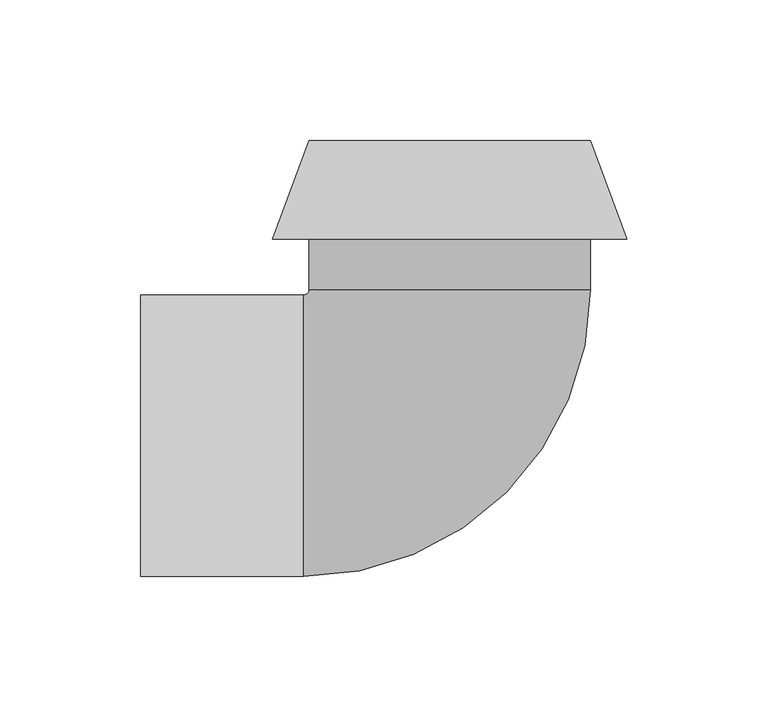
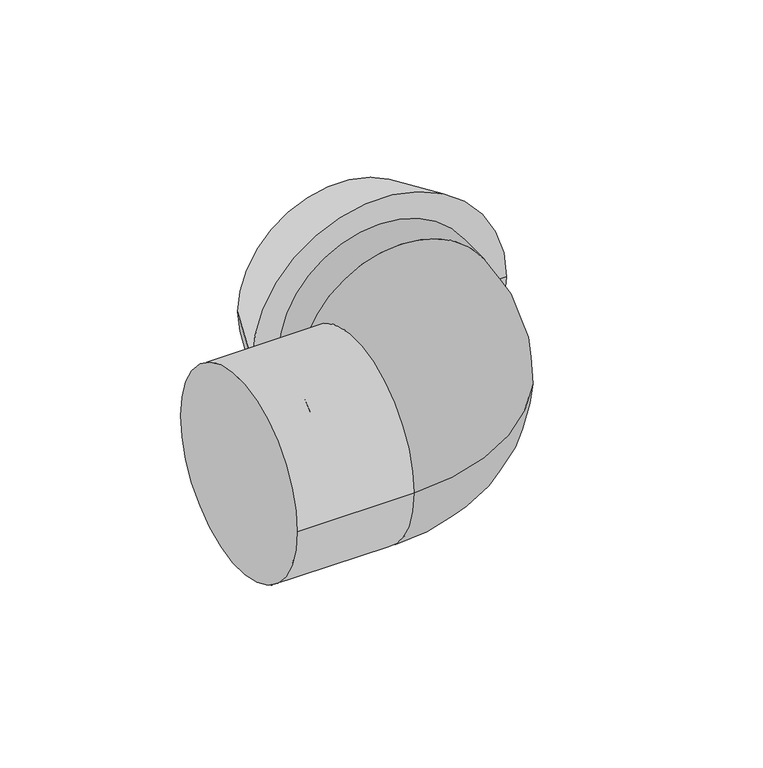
"""IFC4 building model written with IfcOpenShell, lengths in millimetres: duct fitting geometry, NLRS_57_DUF_Easysafe_bocht_M&G : DN100 / 90°."""

from ifc_helpers import new_model, si_unit, point, frame, origin, place, context, project, spatial, polyline, circle_curve, ellipse_curve, trimmed, source, transform, mapped, element, save
from ifc_brep_helpers import plane_surface, cylinder_surface, revolved_surface, advanced_brep


def duct_fitting_4940caac(model_context):
    return source(origin(), model_context, "Body", "AdvancedBrep", [
        advanced_brep(
        [(45.0, 70.0, 0.0), (-45.0, 70.0, 0.0), (-63.0, 70.0, 0.0), (63.0, 70.0, 0.0), (-50.0, 105.0, 0.0), (50.0, 105.0, 0.0), (45.0, 105.0, 0.0), (-45.0, 105.0, 0.0)],
        [
            (0, 1, circle_curve(frame((0.0, 70.0, 0.0), z_axis=(0.0, 1.0, 0.0), x_axis=(-1.0, 0.0, 0.0)), 45.0)),
            (1, 2),
            (2, 3, circle_curve(frame((0.0, 70.0, 0.0), z_axis=(0.0, -1.0, 0.0), x_axis=(-1.0, 0.0, 0.0)), 63.0)),
            (3, 0),
            (1, 0, circle_curve(frame((0.0, 70.0, 0.0), z_axis=(0.0, 1.0, 0.0), x_axis=(-1.0, 0.0, 0.0)), 45.0)),
            (3, 2, circle_curve(frame((0.0, 70.0, 0.0), z_axis=(0.0, -1.0, 0.0), x_axis=(-1.0, 0.0, 0.0)), 63.0)),
            (2, 4, circle_curve(frame((130.1665359, 18.1667152, 0.0), z_axis=(0.0, 0.0, -1.0), x_axis=(1.0, 0.0, 0.0)), 200.0)),
            (4, 5, circle_curve(frame((0.0, 105.0, 0.0), z_axis=(0.0, -1.0, 0.0), x_axis=(-1.0, 0.0, 0.0)), 50.0)),
            (5, 3, circle_curve(frame((-130.1665359, 18.1667152, 0.0), z_axis=(0.0, 0.0, -1.0), x_axis=(-1.0, 0.0, 0.0)), 200.0)),
            (5, 4, circle_curve(frame((0.0, 105.0, 0.0), z_axis=(0.0, -1.0, 0.0), x_axis=(-1.0, 0.0, 0.0)), 50.0)),
            (6, 7, circle_curve(frame((0.0, 105.0, 0.0), z_axis=(0.0, 1.0, 0.0), x_axis=(-1.0, 0.0, 0.0)), 45.0)),
            (7, 1),
            (0, 6),
            (7, 6, circle_curve(frame((0.0, 105.0, 0.0), z_axis=(0.0, 1.0, 0.0), x_axis=(-1.0, 0.0, 0.0)), 45.0)),
            (4, 7),
            (6, 5),
        ],
        [
            plane_surface(frame((0.0, 70.0, 0.0), z_axis=(0.0, -1.0, 0.0), x_axis=(-1.0, 0.0, 0.0))),
            revolved_surface(trimmed(ellipse_curve(frame((130.1665359, 18.1667152, 0.0), z_axis=(0.0, 0.0, 1.0), x_axis=(1.0, 0.0, 0.0)), 200.0, 200.0), [point((-50.0, 105.0, 0.0))], [point((-63.0, 70.0, 0.0))], True, "CARTESIAN"), (0.0, 66.7041329, 0.0), (0.0, -1.0, 0.0)),
            revolved_surface(polyline([(-45.0, 70.0, 0.0), (-45.0, 105.0, 0.0)]), (0.0, 66.7041329, 0.0), (0.0, -1.0, 0.0)),
            plane_surface(frame((0.0, 105.0, 0.0), z_axis=(0.0, 1.0, 0.0), x_axis=(-1.0, 0.0, 0.0))),
        ],
        [
            (0, [[1, 2, 3, 4]]),
            (0, [[5, -4, 6, -2]]),
            (1, [[-3, 7, 8, 9]]),
            (1, [[-6, -9, 10, -7]]),
            (2, [[11, 12, -1, 13]]),
            (2, [[14, -13, -5, -12]]),
            (3, [[-8, 15, -11, 16]]),
            (3, [[-10, -16, -14, -15]]),
        ],
    ),
        advanced_brep(
        [(-50.0, 70.0, 0.0), (50.0, 70.0, 0.0), (-50.0, 52.0, 0.0), (50.0, 52.0, 0.0), (-52.0, -50.0, 0.0), (-52.0, 50.0, 0.0), (-110.0, 50.0, 0.0), (-110.0, -50.0, 0.0)],
        [
            (0, 1, circle_curve(frame((0.0, 70.0, 0.0), z_axis=(0.0, 1.0, 0.0), x_axis=(1.0, 0.0, 0.0)), 50.0)),
            (1, 0, circle_curve(frame((0.0, 70.0, 0.0), z_axis=(0.0, 1.0, 0.0), x_axis=(1.0, 0.0, 0.0)), 50.0)),
            (0, 2),
            (2, 3, circle_curve(frame((0.0, 52.0, 0.0), z_axis=(0.0, 1.0, 0.0), x_axis=(1.0, 0.0, 0.0)), 50.0)),
            (3, 1),
            (3, 2, circle_curve(frame((0.0, 52.0, 0.0), z_axis=(0.0, 1.0, 0.0), x_axis=(1.0, 0.0, 0.0)), 50.0)),
            (4, 3, circle_curve(frame((-52.0, 52.0, 0.0), z_axis=(0.0, 0.0, 1.0), x_axis=(1.0, 0.0, 0.0)), 102.0)),
            (2, 5, circle_curve(frame((-52.0, 52.0, 0.0), z_axis=(0.0, 0.0, -1.0), x_axis=(1.0, 0.0, 0.0)), 2.0)),
            (5, 4, circle_curve(frame((-52.0, 0.0, 0.0), z_axis=(1.0, 0.0, 0.0), x_axis=(0.0, -1.0, 0.0)), 50.0)),
            (4, 5, circle_curve(frame((-52.0, 0.0, 0.0), z_axis=(1.0, 0.0, 0.0), x_axis=(0.0, -1.0, 0.0)), 50.0)),
            (6, 7, circle_curve(frame((-110.0, 0.0, 0.0), z_axis=(-1.0, 0.0, 0.0), x_axis=(0.0, -1.0, 0.0)), 50.0)),
            (7, 6, circle_curve(frame((-110.0, 0.0, 0.0), z_axis=(-1.0, 0.0, 0.0), x_axis=(0.0, -1.0, 0.0)), 50.0)),
            (5, 6),
            (7, 4),
        ],
        [
            plane_surface(frame((0.0, 70.0, 0.0), z_axis=(0.0, 1.0, 0.0), x_axis=(0.0, 0.0, 1.0))),
            cylinder_surface(frame((0.0, 70.0, 0.0), z_axis=(0.0, 1.0, 0.0), x_axis=(1.0, 0.0, 0.0)), 50.0),
            revolved_surface(trimmed(ellipse_curve(frame((0.0, 52.0, 0.0), z_axis=(0.0, 1.0, 0.0), x_axis=(1.0, 0.0, 0.0)), 50.0, 50.0), [point((-50.0, 52.0, 0.0))], [point((50.0, 52.0, 0.0))], True, "CARTESIAN"), (-52.0, 52.0, 0.0), (0.0, 0.0, -1.0)),
            revolved_surface(trimmed(ellipse_curve(frame((0.0, 52.0, 0.0), z_axis=(0.0, 1.0, 0.0), x_axis=(1.0, 0.0, 0.0)), 50.0, 50.0), [point((50.0, 52.0, 0.0))], [point((-50.0, 52.0, 0.0))], True, "CARTESIAN"), (-52.0, 52.0, 0.0), (0.0, 0.0, -1.0)),
            plane_surface(frame((-110.0, 0.0, 0.0), z_axis=(-1.0, 0.0, 0.0), x_axis=(0.0, 0.0, 1.0))),
            cylinder_surface(frame((-52.0, 0.0, 0.0), z_axis=(1.0, 0.0, 0.0), x_axis=(0.0, -1.0, 0.0)), 50.0),
        ],
        [
            (0, [[1, 2]]),
            (1, [[-1, 3, 4, 5]]),
            (1, [[-2, -5, 6, -3]]),
            (2, [[7, -4, 8, 9]]),
            (3, [[-8, -6, -7, 10]]),
            (4, [[11, 12]]),
            (5, [[-9, 13, -12, 14]]),
            (5, [[-10, -14, -11, -13]]),
        ],
    ),
    ])


if __name__ == "__main__":
    model = new_model("IFC4")
    model_context = context("Model", 3, world=origin())
    ifc_project = project(units=[si_unit("LENGTHUNIT", "METRE", prefix="MILLI")], contexts=[model_context])
    site = spatial("IfcSite", under=ifc_project)
    building = spatial("IfcBuilding", under=site)
    placement = place(None, origin())
    duct_fitting_shape = duct_fitting_4940caac(model_context)
    element("IfcDuctFitting", 1, ObjectType="NLRS_57_DUF_Easysafe_bocht_M&G : DN100 / 90°", at=placement, inside=building, context=model_context, shape_type="MappedRepresentation", body=[
        mapped(duct_fitting_shape, transform((0.0, 0.0, 0.0), x_axis=(1.0, 0.0, 0.0), y_axis=(0.0, 1.0, 0.0), z_axis=(0.0, 0.0, 1.0))),
    ])
    save(model, "model.ifc")
